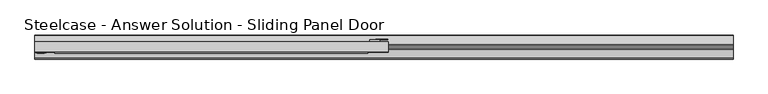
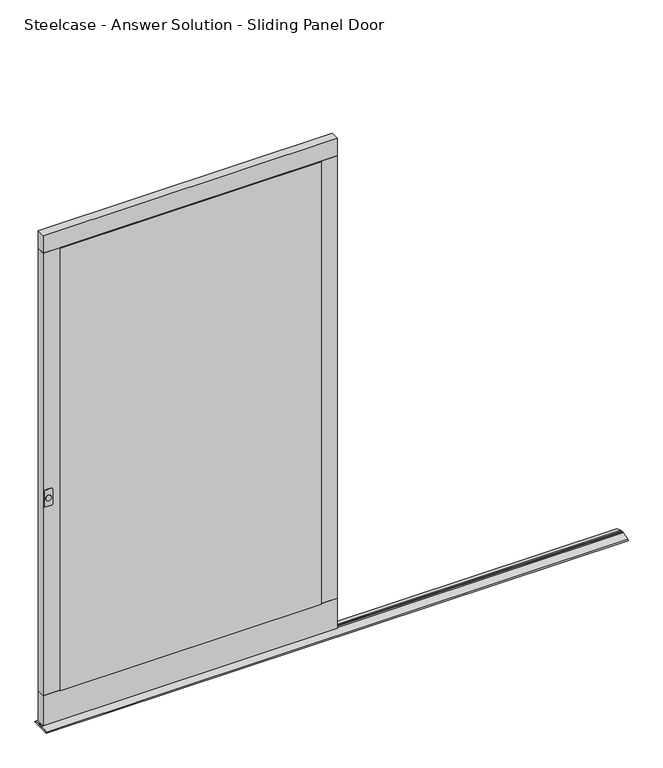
"""IFC4 building model written with IfcOpenShell, lengths in millimetres: furniture geometry."""

from ifc_helpers import new_model, si_unit, point, frame, frame_2d, origin, place, context, project, spatial, polyline, circle_curve, trimmed, segment, composite_curve, outline, extrude, source, transform, mapped, element, save


def steelcase_answer_solution_sliding_panel_door_72884291(model_context):
    return source(origin(), model_context, "Body", "SweptSolid", [
        extrude(outline(composite_curve([segment(trimmed(circle_curve(frame_2d((927.0989028, -2140.2278402)), 10.7468772), [point((927.0989028, -2150.9747174))], [point((927.0989028, -2129.480963))], False, "CARTESIAN"), True, "CONTINUOUS"), segment(trimmed(circle_curve(frame_2d((927.0989028, -2140.2278402)), 10.7468772), [point((927.0989028, -2129.480963))], [point((927.0989028, -2150.9747174))], False, "CARTESIAN"), True, "CONTINUOUS")], self_intersect=False)), frame((0.0, -58.27776, 0.0), z_axis=(0.0, 1.0, 0.0), x_axis=(0.0, 0.0, 1.0)), (0.0, 0.0, 1.0), 2.159),
        extrude(outline(polyline([(-1066.8, -22.2097635), (-1099.82, -22.2097635), (-1099.82, -15.6057635), (-1066.8, -15.6057635), (-1066.8, -22.2097635)])), frame((0.0, 0.0, 828.673924), z_axis=(0.0, 0.0, 1.0), x_axis=(1.0, 0.0, 0.0)), (0.0, 0.0, 1.0), 196.85),
        extrude(outline(composite_curve([segment(trimmed(circle_curve(frame_2d((899.7939028, -2150.14175)), 6.35), [point((899.7939028, -2156.49175))], [point((893.4439028, -2150.14175))], False, "CARTESIAN"), True, "CONTINUOUS"), segment(polyline([(893.4439028, -2150.14175), (893.4439028, -2129.82175)]), True, "CONTINUOUS"), segment(trimmed(circle_curve(frame_2d((899.7939028, -2129.82175)), 6.35), [point((893.4439028, -2129.82175))], [point((899.7939028, -2123.47175))], False, "CARTESIAN"), True, "CONTINUOUS"), segment(polyline([(899.7939028, -2123.47175), (954.4039028, -2123.47175)]), True, "CONTINUOUS"), segment(trimmed(circle_curve(frame_2d((954.4039028, -2129.82175)), 6.35), [point((954.4039028, -2123.47175))], [point((960.7539028, -2129.82175))], False, "CARTESIAN"), True, "CONTINUOUS"), segment(polyline([(960.7539028, -2129.82175), (960.7539028, -2150.14175)]), True, "CONTINUOUS"), segment(trimmed(circle_curve(frame_2d((954.4039028, -2150.14175)), 6.35), [point((960.7539028, -2150.14175))], [point((954.4039028, -2156.49175))], False, "CARTESIAN"), True, "CONTINUOUS"), segment(polyline([(954.4039028, -2156.49175), (899.7939028, -2156.49175)]), True, "CONTINUOUS")], self_intersect=False)), frame((0.0, -56.11876, 0.0), z_axis=(0.0, 1.0, 0.0), x_axis=(0.0, 0.0, 1.0)), (0.0, 0.0, 1.0), 2.1589722),
        extrude(outline(composite_curve([segment(polyline([(958.8489028, -1079.6675713), (946.1489028, -1079.6675713), (946.1489028, -1060.6175713)]), True, "CONTINUOUS"), segment(trimmed(circle_curve(frame_2d((939.7989028, -1060.6175713)), 6.35), [point((946.1489028, -1060.6175713))], [point((939.7989028, -1054.2675713))], True, "CARTESIAN"), True, "CONTINUOUS"), segment(polyline([(939.7989028, -1054.2675713), (914.3989028, -1054.2675713)]), True, "CONTINUOUS"), segment(trimmed(circle_curve(frame_2d((914.3989028, -1060.6175713)), 6.35), [point((914.3989028, -1054.2675713))], [point((908.0489028, -1060.6175713))], True, "CARTESIAN"), True, "CONTINUOUS"), segment(polyline([(908.0489028, -1060.6175713), (908.0489028, -1079.6675713), (895.3489028, -1079.6675713), (895.3489028, -1060.6175713)]), True, "CONTINUOUS"), segment(trimmed(circle_curve(frame_2d((914.3989028, -1060.6175713)), 19.05), [point((895.3489028, -1060.6175713))], [point((914.3989028, -1041.5675713))], False, "CARTESIAN"), True, "CONTINUOUS"), segment(polyline([(914.3989028, -1041.5675713), (939.7989028, -1041.5675713)]), True, "CONTINUOUS"), segment(trimmed(circle_curve(frame_2d((939.7989028, -1060.6175713)), 19.05), [point((939.7989028, -1041.5675713))], [point((958.8489028, -1060.6175713))], False, "CARTESIAN"), True, "CONTINUOUS"), segment(polyline([(958.8489028, -1060.6175713), (958.8489028, -1079.6675713)]), True, "CONTINUOUS")], self_intersect=False)), frame((0.0, -15.6057635, 0.0), z_axis=(0.0, 1.0, 0.0), x_axis=(0.0, 0.0, 1.0)), (0.0, 0.0, 1.0), 2.032),
        extrude(outline(polyline([(-1041.4, -53.9597878), (-2159.0, -53.9597878), (-2159.0, -22.2097635), (-1041.4, -22.2097635), (-1041.4, -53.9597878)])), frame((0.0, 0.0, 1915.1589729), z_axis=(0.0, 0.0, 1.0), x_axis=(1.0, 0.0, 0.0)), (0.0, 0.0, 1.0), 69.8499516),
        extrude(outline(polyline([(-2095.5000969, -53.9597878), (-2159.0, -53.9597878), (-2159.0, -22.2097635), (-2095.5000969, -22.2097635), (-2095.5000969, -53.9597878)])), frame((0.0, 0.0, 137.1589275), z_axis=(0.0, 0.0, 1.0), x_axis=(1.0, 0.0, 0.0)), (0.0, 0.0, 1.0), 1778.0000454),
        extrude(outline(polyline([(-1041.4, -53.9597878), (-1104.8999031, -53.9597878), (-1104.8999031, -22.2097635), (-1041.4, -22.2097635), (-1041.4, -53.9597878)])), frame((0.0, 0.0, 137.1589275), z_axis=(0.0, 0.0, 1.0), x_axis=(1.0, 0.0, 0.0)), (0.0, 0.0, 1.0), 1778.0000454),
        extrude(outline(polyline([(-1041.4, -53.9597878), (-2159.0, -53.9597878), (-2159.0, -22.2097635), (-1041.4, -22.2097635), (-1041.4, -53.9597878)])), frame((0.0, 0.0, 16.5089245), z_axis=(0.0, 0.0, 1.0), x_axis=(1.0, 0.0, 0.0)), (0.0, 0.0, 1.0), 120.650003),
        extrude(outline(polyline([(-1104.8999031, -53.9597878), (-1104.8999031, -57.7514894), (-2095.5000969, -57.7514894), (-2095.5000969, -53.9597878), (-1104.8999031, -53.9597878)])), frame((0.0, 0.0, 137.1589275), z_axis=(0.0, 0.0, 1.0), x_axis=(1.0, 0.0, 0.0)), (0.0, 0.0, 1.0), 1778.0000454),
        extrude(outline(polyline([(-29.8388763, 12.2491055), (-1.9333122, 3.0138476), (0.0, 0.0), (-76.1694786, 0.0), (-74.2361664, 3.0138476), (-46.3306023, 12.2491055), (-46.3306023, 6.2879429), (-39.9806265, 6.2879429), (-39.9806265, 12.6379637), (-36.1889248, 12.6379637), (-36.1889248, 6.2879429), (-29.8388763, 6.2879429), (-29.8388763, 12.2491055)])), frame((-2159.0, 0.0, 0.0), z_axis=(1.0, 0.0, 0.0), x_axis=(0.0, 1.0, 0.0)), (0.0, 0.0, 1.0), 2209.8),
    ])


if __name__ == "__main__":
    model = new_model("IFC4")
    model_context = context("Model", 3, world=origin())
    ifc_project = project(units=[si_unit("LENGTHUNIT", "METRE", prefix="MILLI")], contexts=[model_context])
    site = spatial("IfcSite", under=ifc_project)
    building = spatial("IfcBuilding", under=site)
    placement = place(None, origin())
    steelcase_answer_solution_sliding_panel_door_shape = steelcase_answer_solution_sliding_panel_door_72884291(model_context)
    element("IfcFurniture", 1, ObjectType="Steelcase - Answer Solution - Sliding Panel Door : 78\" x 42\" - Right Door Handle & Lock", at=placement, inside=building, context=model_context, shape_type="MappedRepresentation", body=[
        mapped(steelcase_answer_solution_sliding_panel_door_shape, transform((0.0, 0.0, 0.0), x_axis=(1.0, 0.0, 0.0), y_axis=(0.0, 1.0, 0.0), z_axis=(0.0, 0.0, 1.0))),
    ])
    save(model, "model.ifc")
